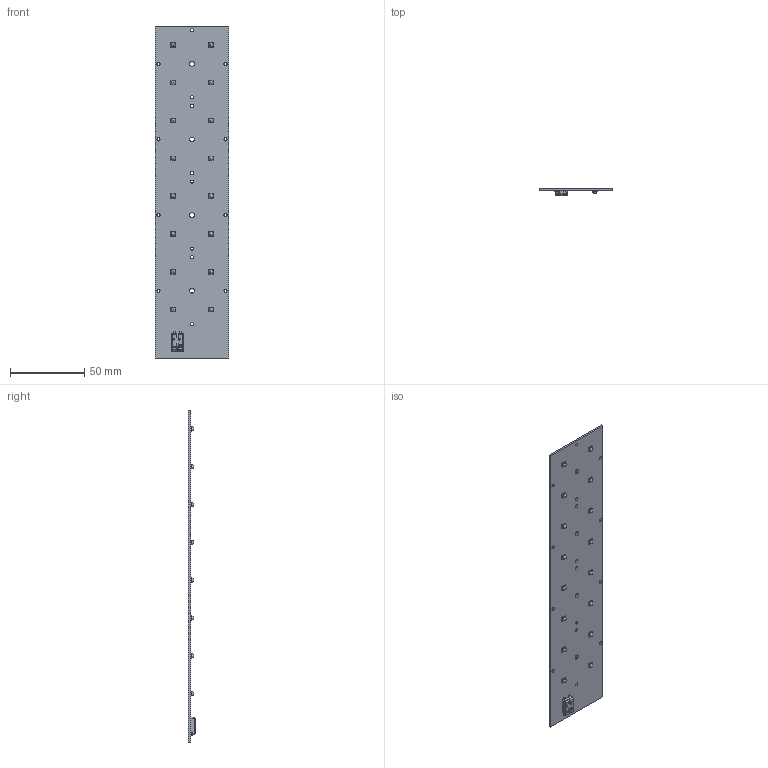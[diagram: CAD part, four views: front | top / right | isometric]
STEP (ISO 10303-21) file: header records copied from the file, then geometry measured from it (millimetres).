
FILE_DESCRIPTION(/* description */ ('Unknown'),/* implementation_level */ '2;1');
FILE_NAME(/* name */ '1010-117-29200',/* time_stamp */ '2018-03-05T08:15:02+01:00',/* author */ ('Unknown'),/* organization */ ('Unknown'),/* preprocessor_version */ 'ST-DEVELOPER v16.7',/* originating_system */ 'DEX',/* authorisation */ $);
FILE_SCHEMA (('AUTOMOTIVE_DESIGN {1 0 10303 214 3 1 1}'));
Length unit declared in the file: millimetre
Products named in the file (4): Z這瞠nie RecLED 224x50mm 2x8 ; PCB RecLED 224x50mm 2x8 ; LED Oslon Gen3; 4010-411-12610 Sh-000 2016-11-03
Assembly tree (18 placements, depth 2):
  Z這瞠nie RecLED 224x50mm 2x8 
    PCB RecLED 224x50mm 2x8 
    LED Oslon Gen3  x16
    4010-411-12610 Sh-000 2016-11-03
Bounding box: 49.5 x 4.95 x 223 mm (x, y, z)
Volume: 16856.8 mm3; surface area: 23835.1 mm2
Topology: 18 solids, 18 shells, 1089 faces, 2782 edges, 1778 vertices
Faces by surface type: plane 521, cylinder 402, bspline 87, torus 43, cone 26, sphere 10
Full cylindrical faces by diameter (mm): 2.1 x16, 3.2 x4
Entity records: 20014 total; most frequent: CARTESIAN_POINT 5884, ORIENTED_EDGE 2358, DIRECTION 1936, EDGE_CURVE 1179, VERTEX_POINT 752, AXIS2_PLACEMENT_3D 680, LINE 576, VECTOR 576
